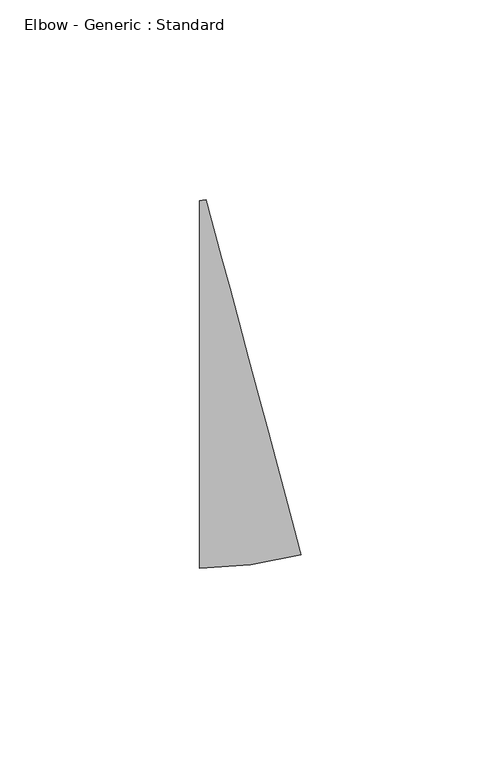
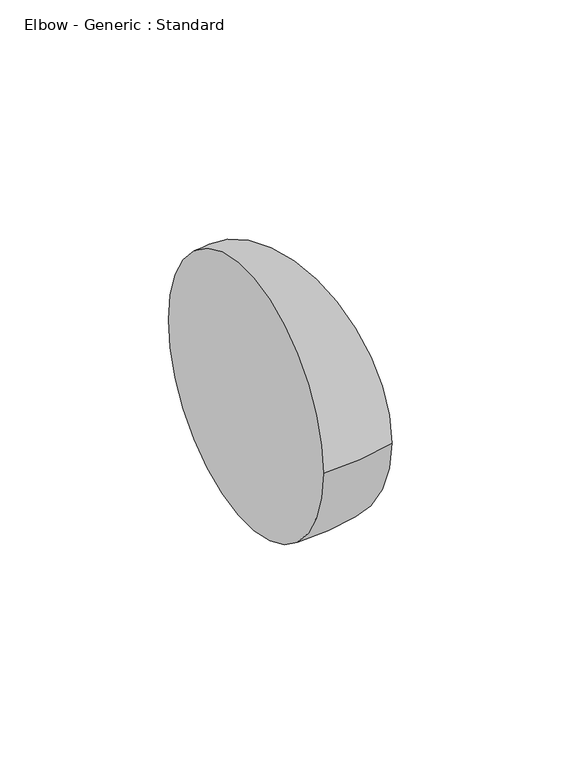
"""IFC4 building model written with IfcOpenShell, lengths in millimetres: pipe fitting geometry, Elbow - Generic : Standard."""

from ifc_helpers import new_model, si_unit, point, frame, origin, place, context, project, spatial, circle_curve, ellipse_curve, trimmed, source, transform, mapped, element, save
from ifc_brep_helpers import plane_surface, revolved_surface, advanced_brep


def elbow_generic_standard_a206539d(model_context):
    return source(origin(), model_context, "Body", "AdvancedBrep", [
        advanced_brep(
        [(-6.897354, -46.0375, 0.0), (-6.897354, 46.0375, 0.0), (18.5783689, -42.6833587, 0.0), (-5.253759, 46.2538962, 0.0)],
        [
            (0, 1, circle_curve(frame((-6.897354, 0.0, 0.0), z_axis=(-1.0, 0.0, 0.0), x_axis=(0.0, 1.0, 0.0)), 46.0375)),
            (1, 0, circle_curve(frame((-6.897354, 0.0, 0.0), z_axis=(-1.0, 0.0, 0.0), x_axis=(0.0, 1.0, 0.0)), 46.0375)),
            (2, 3, circle_curve(frame((6.662305, 1.7852688, 0.0), z_axis=(0.965921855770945, 0.2588338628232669, 0.0), x_axis=(-0.2588338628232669, 0.965921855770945, 0.0)), 46.0375)),
            (3, 2, circle_curve(frame((6.662305, 1.7852688, 0.0), z_axis=(0.965921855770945, 0.2588338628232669, 0.0), x_axis=(-0.2588338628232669, 0.965921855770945, 0.0)), 46.0375)),
            (3, 1, circle_curve(frame((-6.897354, 52.3875, 0.0), z_axis=(0.0, 0.0, -1.0), x_axis=(0.0, -1.0, 0.0)), 6.35)),
            (0, 2, circle_curve(frame((-6.897354, 52.3875, 0.0), z_axis=(0.0, 0.0, 1.0), x_axis=(0.0, -1.0, 0.0)), 98.425)),
        ],
        [
            plane_surface(frame((-6.897354, 0.0, 0.0), z_axis=(-1.0, 0.0, 0.0), x_axis=(0.0, 0.0, 1.0))),
            plane_surface(frame((6.662305, 1.7852688, 0.0), z_axis=(0.965921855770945, 0.2588338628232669, 0.0), x_axis=(0.0, 0.0, 1.0))),
            revolved_surface(trimmed(ellipse_curve(frame((-6.897354, 0.0, 0.0), z_axis=(-1.0, 0.0, 0.0), x_axis=(0.0, 1.0, 0.0)), 46.0375, 46.0375), [point((-6.897354, -46.0375, 0.0))], [point((-6.897354, 46.0375, 0.0))], True, "CARTESIAN"), (-6.897354, 52.3875, 0.0), (0.0, 0.0, 1.0)),
            revolved_surface(trimmed(ellipse_curve(frame((-6.897354, 0.0, 0.0), z_axis=(-1.0, 0.0, 0.0), x_axis=(0.0, 1.0, 0.0)), 46.0375, 46.0375), [point((-6.897354, 46.0375, 0.0))], [point((-6.897354, -46.0375, 0.0))], True, "CARTESIAN"), (-6.897354, 52.3875, 0.0), (0.0, 0.0, 1.0)),
        ],
        [
            (0, [[1, 2]]),
            (1, [[3, 4]]),
            (2, [[5, -1, 6, -4]]),
            (3, [[-6, -2, -5, -3]]),
        ],
    ),
    ])


if __name__ == "__main__":
    model = new_model("IFC4")
    model_context = context("Model", 3, world=origin())
    ifc_project = project(units=[si_unit("LENGTHUNIT", "METRE", prefix="MILLI")], contexts=[model_context])
    site = spatial("IfcSite", under=ifc_project)
    building = spatial("IfcBuilding", under=site)
    placement = place(None, origin())
    elbow_generic_standard_shape = elbow_generic_standard_a206539d(model_context)
    element("IfcPipeFitting", 1, ObjectType="Elbow - Generic : Standard", at=placement, inside=building, context=model_context, shape_type="MappedRepresentation", body=[
        mapped(elbow_generic_standard_shape, transform((0.0, 0.0, 0.0), x_axis=(1.0, 0.0, 0.0), y_axis=(0.0, 1.0, 0.0), z_axis=(0.0, 0.0, 1.0))),
    ])
    save(model, "model.ifc")
